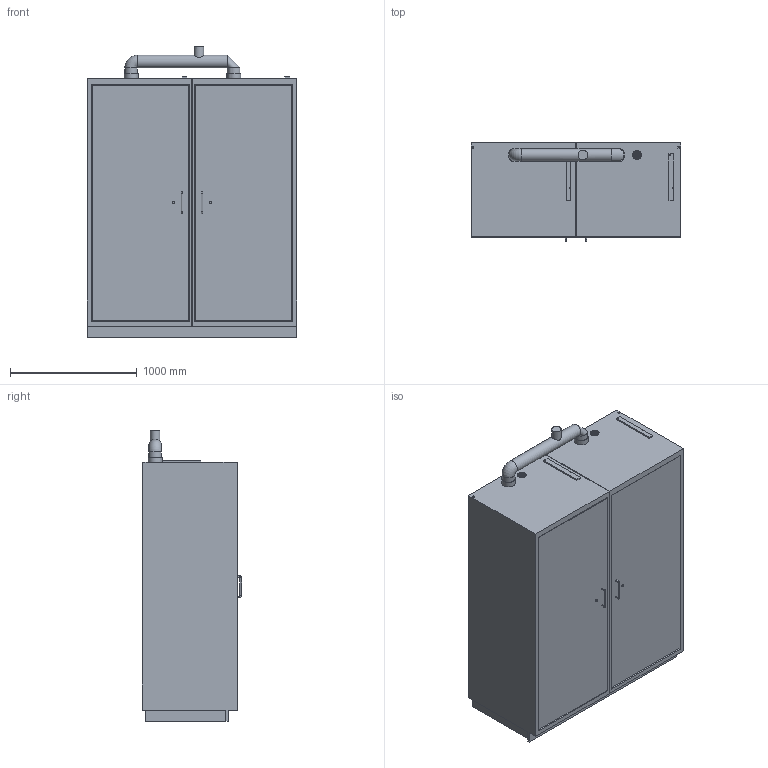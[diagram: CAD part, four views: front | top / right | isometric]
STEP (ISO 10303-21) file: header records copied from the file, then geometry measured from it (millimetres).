
FILE_DESCRIPTION(/* description */ ('Unknown'),/* implementation_level */ '2;1');
FILE_NAME(/* name */ 'Sicherheitsschrank Typ 90_D00086254',/* time_stamp */ '2019-04-10T11:30:36+02:00',/* author */ ('Unknown'),/* organization */ ('Unknown'),/* preprocessor_version */ 'ST-DEVELOPER v16.7',/* originating_system */ 'DEX',/* authorisation */ $);
FILE_SCHEMA (('AUTOMOTIVE_DESIGN {1 0 10303 214 3 1 1}'));
Length unit declared in the file: millimetre
Products named in the file (1): Sicherheitsschrank Typ 90_D00086254
Bounding box: 1654 x 781.99 x 2295.5 mm (x, y, z)
Volume: 2425988858.2 mm3; surface area: 14218387.1 mm2
Topology: 1 solids, 1 shells, 186 faces, 451 edges, 296 vertices
Faces by surface type: plane 132, cylinder 48, torus 6
Full cylindrical faces by diameter (mm): 6.2 x2, 7.5 x4, 12 x6, 18 x2, 75 x1, 100 x3, 109.5 x2
Entity records: 6558 total; most frequent: CARTESIAN_POINT 931, DIRECTION 883, ORIENTED_EDGE 828, EDGE_CURVE 414, LINE 317, VECTOR 317, VERTEX_POINT 287, AXIS2_PLACEMENT_3D 283
